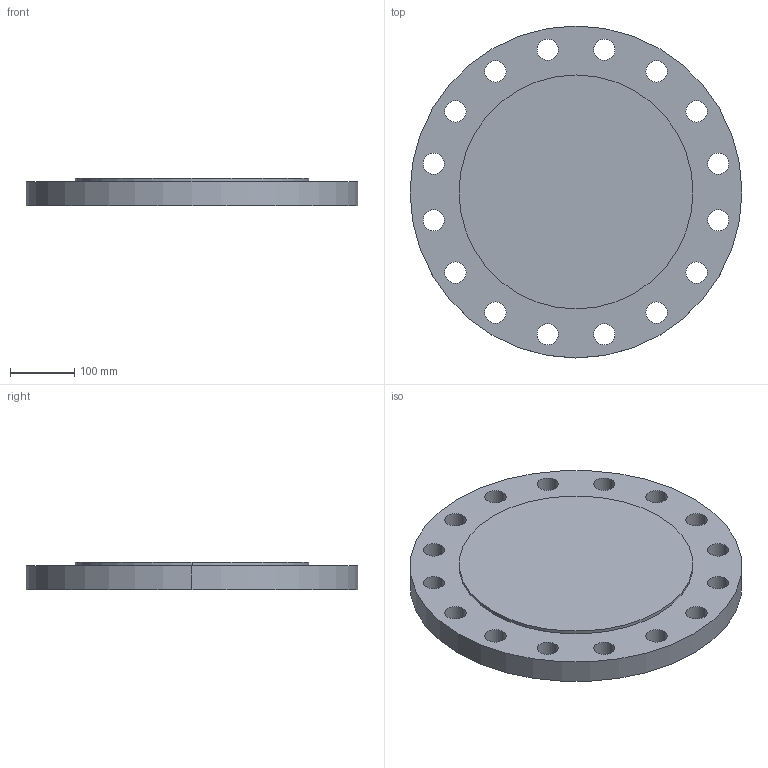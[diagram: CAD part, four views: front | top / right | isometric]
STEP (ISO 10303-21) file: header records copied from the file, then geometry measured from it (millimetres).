
FILE_DESCRIPTION (( 'STEP AP214' ), '1' );
FILE_NAME ('PN40 DN300 Type 05 - Type E Face.STEP', '2019-01-05T20:27:02', ( '' ), ( '' ), 'SwSTEP 2.0', 'SolidWorks 2019', '' );
FILE_SCHEMA (( 'AUTOMOTIVE_DESIGN' ));
Length unit declared in the file: millimetre
Products named in the file (1): PN40 DN300 Type 05 - Type E Face
Bounding box: 515 x 515 x 42 mm (x, y, z)
Volume: 7718486.3 mm3; surface area: 516184.1 mm2
Topology: 1 solids, 1 shells, 39 faces, 108 edges, 72 vertices
Faces by surface type: cylinder 36, plane 3
Entity records: 1392 total; most frequent: DIRECTION 260, CARTESIAN_POINT 220, ORIENTED_EDGE 216, AXIS2_PLACEMENT_3D 112, EDGE_CURVE 108, CIRCLE 72, VERTEX_POINT 72, EDGE_LOOP 72
